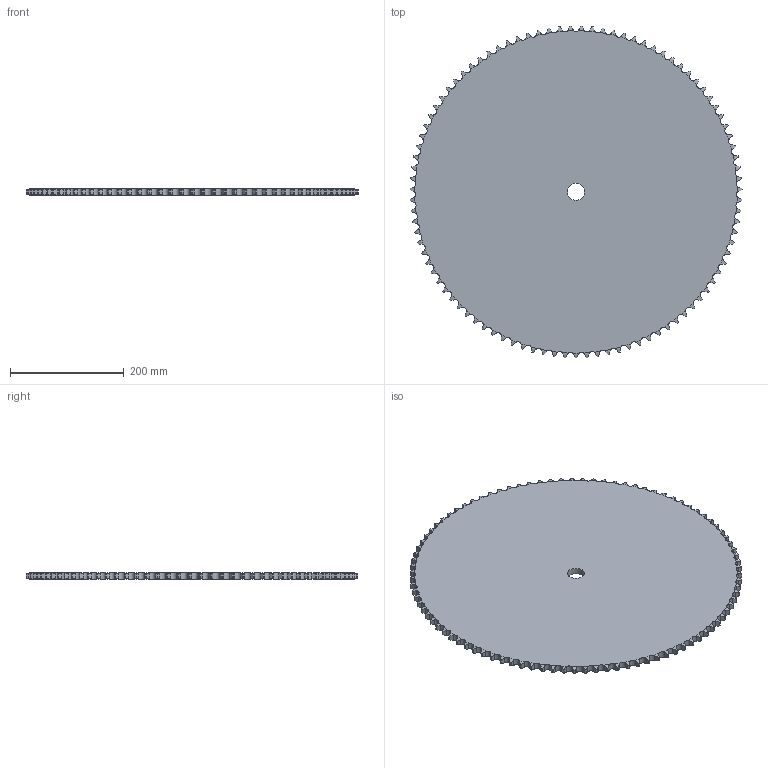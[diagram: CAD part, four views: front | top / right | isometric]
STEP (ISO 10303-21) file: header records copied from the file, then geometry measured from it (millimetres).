
FILE_DESCRIPTION((''),'2;1');
FILE_NAME('500-401-0095_PRT','2021-02-12T',('Brieden'),('Brieden'),'PRO/ENGINEER BY PARAMETRIC TECHNOLOGY CORPORATION, 2010160','PRO/ENGINEER BY PARAMETRIC TECHNOLOGY CORPORATION, 2010160','');
FILE_SCHEMA(('AUTOMOTIVE_DESIGN { 1 0 10303 214 1 1 1 1 }'));
Length unit declared in the file: millimetre
Products named in the file (1): 500-401-0095_PRT
Bounding box: 583.42 x 583.34 x 11.1 mm (x, y, z)
Volume: 2834873.7 mm3; surface area: 541079.3 mm2
Topology: 1 solids, 1 shells, 574 faces, 1716 edges, 1144 vertices
Faces by surface type: cylinder 382, torus 190, plane 2
Entity records: 28886 total; most frequent: CARTESIAN_POINT 9147, ORIENTED_EDGE 3432, DIRECTION 2678, PRESENTATION_STYLE_ASSIGNMENT 1717, STYLED_ITEM 1717, CURVE_STYLE 1716, EDGE_CURVE 1716, AXIS2_PLACEMENT_3D 1148
